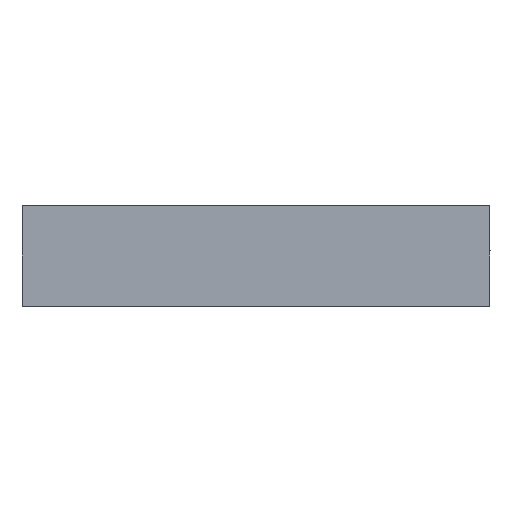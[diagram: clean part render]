
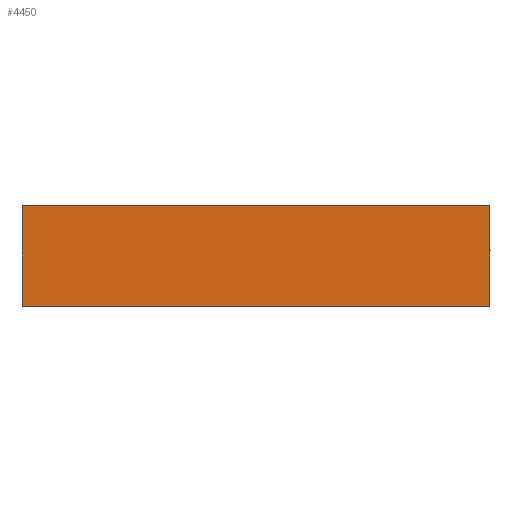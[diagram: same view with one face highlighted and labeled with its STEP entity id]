
A CAD part, front view. The second image highlights one B-rep face of the part: STEP entity #4450.
In plain terms, the highlighted planar face has unit normal (0, -1, 0).
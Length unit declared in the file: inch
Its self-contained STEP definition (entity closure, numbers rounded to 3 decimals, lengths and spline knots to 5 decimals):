
#1113 = ORIENTED_EDGE ( 'NONE', *, *, #2701, .F. ) ;
#1362 = DIRECTION ( 'NONE',  ( -1., 0., 0. ) ) ;
#1508 = CARTESIAN_POINT ( 'NONE',  ( 32.5, 0., -7. ) ) ;
#1862 = LINE ( 'NONE', #11375, #27008 ) ;
#2045 = VERTEX_POINT ( 'NONE', #4304 ) ;
#2167 = AXIS2_PLACEMENT_3D ( 'NONE', #5870, #5594, #5559 ) ;
#2550 = EDGE_CURVE ( 'NONE', #29030, #26486, #24446, .T. ) ;
#2614 = EDGE_CURVE ( 'NONE', #26486, #2045, #1862, .T. ) ;
#2677 = CARTESIAN_POINT ( 'NONE',  ( 32.5, 0., -7. ) ) ;
#2701 = EDGE_CURVE ( 'NONE', #16427, #2045, #19179, .T. ) ;
#3985 = CARTESIAN_POINT ( 'NONE',  ( 32.5, 0., 0. ) ) ;
#4304 = CARTESIAN_POINT ( 'NONE',  ( 0., 0., -7. ) ) ;
#4450 = ADVANCED_FACE ( 'NONE', ( #21001 ), #5827, .F. ) ;
#5559 = DIRECTION ( 'NONE',  ( 0., 0., 1. ) ) ;
#5578 = EDGE_LOOP ( 'NONE', ( #18444, #1113, #11587, #13128 ) ) ;
#5594 = DIRECTION ( 'NONE',  ( 0., 1., 0. ) ) ;
#5827 = PLANE ( 'NONE',  #2167 ) ;
#5870 = CARTESIAN_POINT ( 'NONE',  ( 32.5, 0., 0. ) ) ;
#11375 = CARTESIAN_POINT ( 'NONE',  ( 0., 0., 0. ) ) ;
#11443 = DIRECTION ( 'NONE',  ( 0., 0., -1. ) ) ;
#11587 = ORIENTED_EDGE ( 'NONE', *, *, #16237, .F. ) ;
#12690 = VECTOR ( 'NONE', #1362, 39.37008 ) ;
#12978 = DIRECTION ( 'NONE',  ( -1., 0., 0. ) ) ;
#13128 = ORIENTED_EDGE ( 'NONE', *, *, #2550, .T. ) ;
#13269 = CARTESIAN_POINT ( 'NONE',  ( 32.5, 0., 0. ) ) ;
#13730 = VECTOR ( 'NONE', #21054, 39.37008 ) ;
#14488 = LINE ( 'NONE', #3985, #13730 ) ;
#16237 = EDGE_CURVE ( 'NONE', #29030, #16427, #14488, .T. ) ;
#16427 = VERTEX_POINT ( 'NONE', #2677 ) ;
#16573 = VECTOR ( 'NONE', #12978, 39.37008 ) ;
#17709 = CARTESIAN_POINT ( 'NONE',  ( 32.5, 0., 0. ) ) ;
#18444 = ORIENTED_EDGE ( 'NONE', *, *, #2614, .T. ) ;
#18941 = CARTESIAN_POINT ( 'NONE',  ( 0., 0., 0. ) ) ;
#19179 = LINE ( 'NONE', #1508, #12690 ) ;
#21001 = FACE_OUTER_BOUND ( 'NONE', #5578, .T. ) ;
#21054 = DIRECTION ( 'NONE',  ( 0., 0., -1. ) ) ;
#24446 = LINE ( 'NONE', #13269, #16573 ) ;
#26486 = VERTEX_POINT ( 'NONE', #18941 ) ;
#27008 = VECTOR ( 'NONE', #11443, 39.37008 ) ;
#29030 = VERTEX_POINT ( 'NONE', #17709 ) ;
